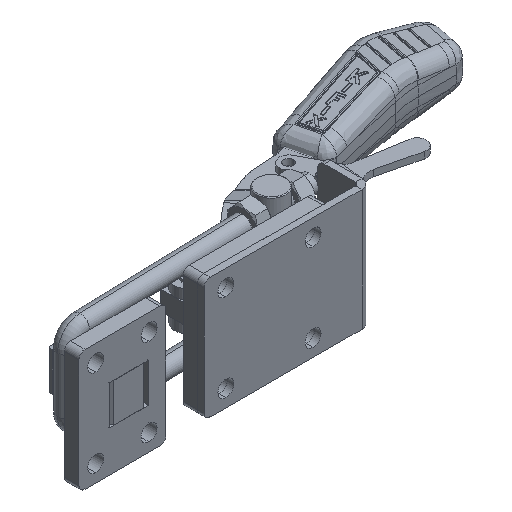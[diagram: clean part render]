
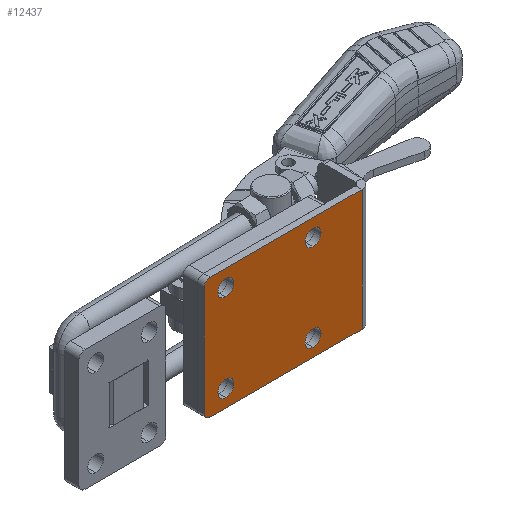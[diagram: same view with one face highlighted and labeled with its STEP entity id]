
A CAD part, isometric view. The second image highlights one B-rep face of the part: STEP entity #12437.
In plain terms, the highlighted planar face has unit normal (0, -1, 0).
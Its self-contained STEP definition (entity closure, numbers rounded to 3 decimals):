
#268 = VECTOR ( 'NONE', #24534, 1000. ) ;
#347 = EDGE_CURVE ( 'NONE', #581, #13121, #21869, .T. ) ;
#359 = EDGE_CURVE ( 'NONE', #18061, #8215, #10009, .T. ) ;
#444 = LINE ( 'NONE', #10689, #27239 ) ;
#463 = VERTEX_POINT ( 'NONE', #26806 ) ;
#530 = ORIENTED_EDGE ( 'NONE', *, *, #4224, .F. ) ;
#581 = VERTEX_POINT ( 'NONE', #13265 ) ;
#708 = DIRECTION ( 'NONE',  ( 0., 0., 1. ) ) ;
#836 = CIRCLE ( 'NONE', #6279, 5.25 ) ;
#1025 = DIRECTION ( 'NONE',  ( 0., 1., 0. ) ) ;
#1555 = AXIS2_PLACEMENT_3D ( 'NONE', #20956, #22984, #25230 ) ;
#1592 = DIRECTION ( 'NONE',  ( 0., -1., 0. ) ) ;
#1679 = FACE_OUTER_BOUND ( 'NONE', #10092, .T. ) ;
#1929 = CIRCLE ( 'NONE', #11493, 5.25 ) ;
#2071 = CARTESIAN_POINT ( 'NONE',  ( -45.65, 0., 33.85 ) ) ;
#2617 = DIRECTION ( 'NONE',  ( 0., -1., 0. ) ) ;
#2720 = DIRECTION ( 'NONE',  ( 0., 1., 0. ) ) ;
#2728 = VERTEX_POINT ( 'NONE', #10774 ) ;
#2740 = DIRECTION ( 'NONE',  ( 0., 1., 0. ) ) ;
#3763 = EDGE_CURVE ( 'NONE', #9056, #18415, #1929, .T. ) ;
#3787 = DIRECTION ( 'NONE',  ( 0., 1., 0. ) ) ;
#3872 = EDGE_LOOP ( 'NONE', ( #16949, #17314 ) ) ;
#4224 = EDGE_CURVE ( 'NONE', #13810, #9190, #11516, .T. ) ;
#4777 = VERTEX_POINT ( 'NONE', #6865 ) ;
#4899 = AXIS2_PLACEMENT_3D ( 'NONE', #15299, #2617, #17432 ) ;
#4900 = ORIENTED_EDGE ( 'NONE', *, *, #17461, .T. ) ;
#5320 = AXIS2_PLACEMENT_3D ( 'NONE', #26064, #13417, #708 ) ;
#5343 = DIRECTION ( 'NONE',  ( 0., 1., 0. ) ) ;
#5354 = ORIENTED_EDGE ( 'NONE', *, *, #17605, .T. ) ;
#6279 = AXIS2_PLACEMENT_3D ( 'NONE', #13742, #1025, #15859 ) ;
#6295 = CARTESIAN_POINT ( 'NONE',  ( -45.65, 0., -28.6 ) ) ;
#6421 = VERTEX_POINT ( 'NONE', #21623 ) ;
#6575 = DIRECTION ( 'NONE',  ( 0., 1., 0. ) ) ;
#6865 = CARTESIAN_POINT ( 'NONE',  ( -45.65, 0., 23.35 ) ) ;
#7323 = FACE_BOUND ( 'NONE', #7419, .T. ) ;
#7419 = EDGE_LOOP ( 'NONE', ( #16065, #4900 ) ) ;
#7738 = ORIENTED_EDGE ( 'NONE', *, *, #9514, .T. ) ;
#8215 = VERTEX_POINT ( 'NONE', #16307 ) ;
#8302 = EDGE_CURVE ( 'NONE', #581, #9190, #444, .T. ) ;
#8512 = CARTESIAN_POINT ( 'NONE',  ( 60., 0., -39.75 ) ) ;
#9056 = VERTEX_POINT ( 'NONE', #13409 ) ;
#9190 = VERTEX_POINT ( 'NONE', #24764 ) ;
#9514 = EDGE_CURVE ( 'NONE', #6421, #17669, #10013, .T. ) ;
#9833 = VECTOR ( 'NONE', #18824, 1000. ) ;
#9921 = EDGE_CURVE ( 'NONE', #13810, #463, #10078, .T. ) ;
#10009 = CIRCLE ( 'NONE', #12315, 5.25 ) ;
#10013 = CIRCLE ( 'NONE', #24382, 5.25 ) ;
#10078 = CIRCLE ( 'NONE', #4899, 4. ) ;
#10092 = EDGE_LOOP ( 'NONE', ( #20974, #5354, #15591, #25970, #530, #23316 ) ) ;
#10235 = CARTESIAN_POINT ( 'NONE',  ( 11.55, 0., -23.35 ) ) ;
#10521 = LINE ( 'NONE', #22951, #9833 ) ;
#10546 = CIRCLE ( 'NONE', #23122, 5.25 ) ;
#10567 = DIRECTION ( 'NONE',  ( 0., 0., 1. ) ) ;
#10689 = CARTESIAN_POINT ( 'NONE',  ( 43.75, 0., -39.75 ) ) ;
#10774 = CARTESIAN_POINT ( 'NONE',  ( -60., 0., -35.75 ) ) ;
#11240 = EDGE_CURVE ( 'NONE', #18415, #9056, #17611, .T. ) ;
#11313 = CARTESIAN_POINT ( 'NONE',  ( -45.65, 0., -23.35 ) ) ;
#11401 = ORIENTED_EDGE ( 'NONE', *, *, #25747, .T. ) ;
#11458 = CARTESIAN_POINT ( 'NONE',  ( 11.55, 0., 33.85 ) ) ;
#11493 = AXIS2_PLACEMENT_3D ( 'NONE', #11607, #26396, #13756 ) ;
#11516 = LINE ( 'NONE', #11875, #268 ) ;
#11607 = CARTESIAN_POINT ( 'NONE',  ( 11.55, 0., 28.6 ) ) ;
#11875 = CARTESIAN_POINT ( 'NONE',  ( 60., 0., 39.75 ) ) ;
#12315 = AXIS2_PLACEMENT_3D ( 'NONE', #6295, #6575, #10567 ) ;
#12437 = ADVANCED_FACE ( 'NONE', ( #7323, #12980, #14299, #24191, #1679 ), #23084, .T. ) ;
#12980 = FACE_BOUND ( 'NONE', #22497, .T. ) ;
#13121 = VERTEX_POINT ( 'NONE', #21838 ) ;
#13176 = ORIENTED_EDGE ( 'NONE', *, *, #21084, .T. ) ;
#13265 = CARTESIAN_POINT ( 'NONE',  ( 43.75, 0., -39.75 ) ) ;
#13409 = CARTESIAN_POINT ( 'NONE',  ( 11.55, 0., 23.35 ) ) ;
#13417 = DIRECTION ( 'NONE',  ( 0., 1., 0. ) ) ;
#13742 = CARTESIAN_POINT ( 'NONE',  ( -45.65, 0., -28.6 ) ) ;
#13756 = DIRECTION ( 'NONE',  ( 0., 0., 1. ) ) ;
#13810 = VERTEX_POINT ( 'NONE', #13977 ) ;
#13977 = CARTESIAN_POINT ( 'NONE',  ( -56., 0., 39.75 ) ) ;
#14294 = CARTESIAN_POINT ( 'NONE',  ( -56., 0., -35.75 ) ) ;
#14299 = FACE_BOUND ( 'NONE', #3872, .T. ) ;
#15299 = CARTESIAN_POINT ( 'NONE',  ( -56., 0., 35.75 ) ) ;
#15417 = CARTESIAN_POINT ( 'NONE',  ( 11.55, 0., 28.6 ) ) ;
#15433 = CARTESIAN_POINT ( 'NONE',  ( 11.55, 0., -28.6 ) ) ;
#15569 = AXIS2_PLACEMENT_3D ( 'NONE', #15417, #2720, #17525 ) ;
#15591 = ORIENTED_EDGE ( 'NONE', *, *, #347, .F. ) ;
#15859 = DIRECTION ( 'NONE',  ( 0., 0., 1. ) ) ;
#16065 = ORIENTED_EDGE ( 'NONE', *, *, #359, .T. ) ;
#16307 = CARTESIAN_POINT ( 'NONE',  ( -45.65, 0., -33.85 ) ) ;
#16411 = DIRECTION ( 'NONE',  ( 0., 0., -1. ) ) ;
#16461 = CARTESIAN_POINT ( 'NONE',  ( -45.65, 0., 28.6 ) ) ;
#16949 = ORIENTED_EDGE ( 'NONE', *, *, #11240, .T. ) ;
#17314 = ORIENTED_EDGE ( 'NONE', *, *, #3763, .T. ) ;
#17432 = DIRECTION ( 'NONE',  ( 0., 0., -1. ) ) ;
#17461 = EDGE_CURVE ( 'NONE', #8215, #18061, #836, .T. ) ;
#17525 = DIRECTION ( 'NONE',  ( 0., 0., 1. ) ) ;
#17539 = DIRECTION ( 'NONE',  ( 0., 0., 1. ) ) ;
#17605 = EDGE_CURVE ( 'NONE', #2728, #13121, #26318, .T. ) ;
#17611 = CIRCLE ( 'NONE', #15569, 5.25 ) ;
#17669 = VERTEX_POINT ( 'NONE', #10235 ) ;
#18031 = CARTESIAN_POINT ( 'NONE',  ( 11.55, 0., -28.6 ) ) ;
#18061 = VERTEX_POINT ( 'NONE', #11313 ) ;
#18383 = AXIS2_PLACEMENT_3D ( 'NONE', #16461, #3787, #18584 ) ;
#18415 = VERTEX_POINT ( 'NONE', #11458 ) ;
#18584 = DIRECTION ( 'NONE',  ( 0., 0., 1. ) ) ;
#18727 = VERTEX_POINT ( 'NONE', #2071 ) ;
#18824 = DIRECTION ( 'NONE',  ( 0., 0., 1. ) ) ;
#20027 = ORIENTED_EDGE ( 'NONE', *, *, #20924, .T. ) ;
#20128 = DIRECTION ( 'NONE',  ( 0., 0., 1. ) ) ;
#20410 = AXIS2_PLACEMENT_3D ( 'NONE', #14294, #1592, #16411 ) ;
#20924 = EDGE_CURVE ( 'NONE', #17669, #6421, #10546, .T. ) ;
#20956 = CARTESIAN_POINT ( 'NONE',  ( -60., 0., 39.75 ) ) ;
#20974 = ORIENTED_EDGE ( 'NONE', *, *, #21647, .F. ) ;
#21084 = EDGE_CURVE ( 'NONE', #4777, #18727, #24737, .T. ) ;
#21184 = DIRECTION ( 'NONE',  ( 0., 0., 1. ) ) ;
#21623 = CARTESIAN_POINT ( 'NONE',  ( 11.55, 0., -33.85 ) ) ;
#21647 = EDGE_CURVE ( 'NONE', #2728, #463, #10521, .T. ) ;
#21683 = EDGE_LOOP ( 'NONE', ( #11401, #13176 ) ) ;
#21838 = CARTESIAN_POINT ( 'NONE',  ( -56., 0., -39.75 ) ) ;
#21869 = LINE ( 'NONE', #8512, #26853 ) ;
#22497 = EDGE_LOOP ( 'NONE', ( #20027, #7738 ) ) ;
#22933 = CIRCLE ( 'NONE', #5320, 5.25 ) ;
#22951 = CARTESIAN_POINT ( 'NONE',  ( -60., 0., -39.75 ) ) ;
#22984 = DIRECTION ( 'NONE',  ( 0., -1., 0. ) ) ;
#23084 = PLANE ( 'NONE',  #1555 ) ;
#23122 = AXIS2_PLACEMENT_3D ( 'NONE', #18031, #5343, #20128 ) ;
#23316 = ORIENTED_EDGE ( 'NONE', *, *, #9921, .T. ) ;
#23550 = DIRECTION ( 'NONE',  ( -1., 0., 0. ) ) ;
#24191 = FACE_BOUND ( 'NONE', #21683, .T. ) ;
#24382 = AXIS2_PLACEMENT_3D ( 'NONE', #15433, #2740, #17539 ) ;
#24534 = DIRECTION ( 'NONE',  ( 1., 0., 0. ) ) ;
#24737 = CIRCLE ( 'NONE', #18383, 5.25 ) ;
#24764 = CARTESIAN_POINT ( 'NONE',  ( 43.75, 0., 39.75 ) ) ;
#25230 = DIRECTION ( 'NONE',  ( 0., 0., -1. ) ) ;
#25747 = EDGE_CURVE ( 'NONE', #18727, #4777, #22933, .T. ) ;
#25970 = ORIENTED_EDGE ( 'NONE', *, *, #8302, .T. ) ;
#26064 = CARTESIAN_POINT ( 'NONE',  ( -45.65, 0., 28.6 ) ) ;
#26318 = CIRCLE ( 'NONE', #20410, 4. ) ;
#26396 = DIRECTION ( 'NONE',  ( 0., 1., 0. ) ) ;
#26806 = CARTESIAN_POINT ( 'NONE',  ( -60., 0., 35.75 ) ) ;
#26853 = VECTOR ( 'NONE', #23550, 1000. ) ;
#27239 = VECTOR ( 'NONE', #21184, 1000. ) ;
